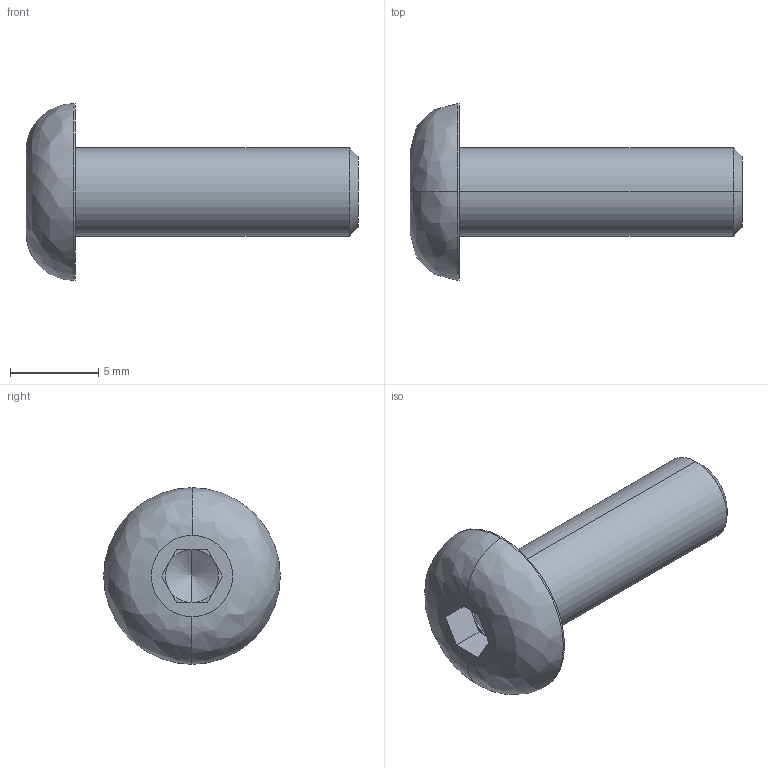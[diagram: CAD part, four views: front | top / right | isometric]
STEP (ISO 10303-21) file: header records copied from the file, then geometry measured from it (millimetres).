
FILE_DESCRIPTION (( 'STEP AP214' ), '1' );
FILE_NAME ('ISO7380_5x16.STEP', '2016-05-18T14:45:58', ( '' ), ( '' ), 'SwSTEP 2.0', 'SolidWorks 2014', '' );
FILE_SCHEMA (( 'AUTOMOTIVE_DESIGN' ));
Length unit declared in the file: millimetre
Products named in the file (1): ISO7380_5x16
Bounding box: 18.8 x 10 x 10 mm (x, y, z)
Volume: 472.1 mm3; surface area: 473 mm2
Topology: 1 solids, 1 shells, 27 faces, 59 edges, 34 vertices
Faces by surface type: plane 15, cylinder 6, cone 4, bspline 2
Entity records: 771 total; most frequent: CARTESIAN_POINT 158, DIRECTION 126, ORIENTED_EDGE 114, EDGE_CURVE 57, AXIS2_PLACEMENT_3D 46, VECTOR 34, LINE 34, VERTEX_POINT 34
